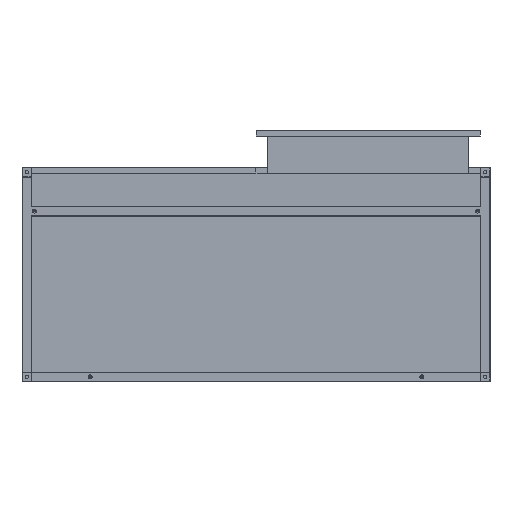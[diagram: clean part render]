
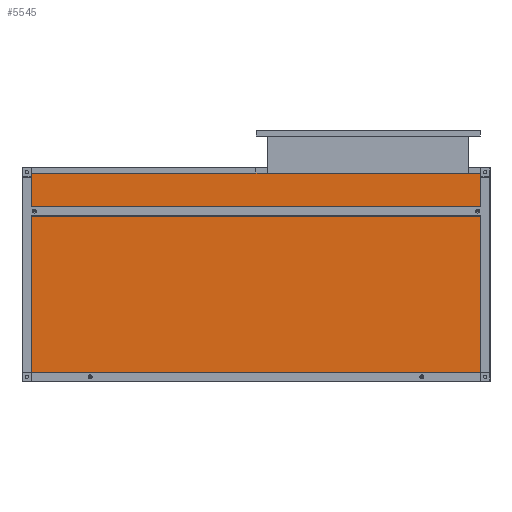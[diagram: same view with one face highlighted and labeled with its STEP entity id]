
A CAD part, front view. The second image highlights one B-rep face of the part: STEP entity #5545.
In plain terms, the highlighted planar face has unit normal (0, -1, 0).
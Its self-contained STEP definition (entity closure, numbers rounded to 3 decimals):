
#109 = EDGE_CURVE ( 'NONE', #3782, #197, #1303, .T. ) ;
#159 = ORIENTED_EDGE ( 'NONE', *, *, #6303, .F. ) ;
#197 = VERTEX_POINT ( 'NONE', #3172 ) ;
#216 = LINE ( 'NONE', #795, #6460 ) ;
#321 = DIRECTION ( 'NONE',  ( 0., 0., -1. ) ) ;
#423 = EDGE_CURVE ( 'NONE', #197, #2864, #1809, .T. ) ;
#503 = CARTESIAN_POINT ( 'NONE',  ( -575., -250., 0. ) ) ;
#644 = EDGE_CURVE ( 'Bordo1', #4188, #3782, #4212, .T. ) ;
#754 = CARTESIAN_POINT ( 'NONE',  ( -575., -250., 0. ) ) ;
#782 = DIRECTION ( 'NONE',  ( 1., 0., 0. ) ) ;
#795 = CARTESIAN_POINT ( 'NONE',  ( 575., -250., 0. ) ) ;
#1303 = LINE ( 'NONE', #754, #1354 ) ;
#1354 = VECTOR ( 'NONE', #2987, 1000. ) ;
#1809 = LINE ( 'NONE', #6903, #5435 ) ;
#2098 = PLANE ( 'NONE',  #3321 ) ;
#2725 = ORIENTED_EDGE ( 'NONE', *, *, #109, .F. ) ;
#2864 = VERTEX_POINT ( 'NONE', #3412 ) ;
#2987 = DIRECTION ( 'NONE',  ( 0., 0., 1. ) ) ;
#3172 = CARTESIAN_POINT ( 'NONE',  ( -575., -250., 535. ) ) ;
#3321 = AXIS2_PLACEMENT_3D ( 'NONE', #4318, #4387, #4904 ) ;
#3412 = CARTESIAN_POINT ( 'NONE',  ( 575., -250., 535. ) ) ;
#3782 = VERTEX_POINT ( 'NONE', #503 ) ;
#4188 = VERTEX_POINT ( 'NONE', #6748 ) ;
#4212 = LINE ( 'NONE', #7089, #7067 ) ;
#4318 = CARTESIAN_POINT ( 'NONE',  ( 0., -250., 0. ) ) ;
#4387 = DIRECTION ( 'NONE',  ( 0., 1., 0. ) ) ;
#4446 = EDGE_LOOP ( 'NONE', ( #159, #4449, #2725, #7216 ) ) ;
#4449 = ORIENTED_EDGE ( 'NONE', *, *, #423, .F. ) ;
#4904 = DIRECTION ( 'NONE',  ( 0., 0., 1. ) ) ;
#5435 = VECTOR ( 'NONE', #782, 1000. ) ;
#5545 = ADVANCED_FACE ( 'NONE', ( #7152 ), #2098, .F. ) ;
#5919 = DIRECTION ( 'NONE',  ( -1., 0., 0. ) ) ;
#6303 = EDGE_CURVE ( 'NONE', #2864, #4188, #216, .T. ) ;
#6460 = VECTOR ( 'NONE', #321, 1000. ) ;
#6748 = CARTESIAN_POINT ( 'NONE',  ( 575., -250., 0. ) ) ;
#6903 = CARTESIAN_POINT ( 'NONE',  ( -575., -250., 535. ) ) ;
#7067 = VECTOR ( 'NONE', #5919, 1000. ) ;
#7089 = CARTESIAN_POINT ( 'NONE',  ( -575., -250., 0. ) ) ;
#7152 = FACE_OUTER_BOUND ( 'NONE', #4446, .T. ) ;
#7216 = ORIENTED_EDGE ( 'NONE', *, *, #644, .F. ) ;
